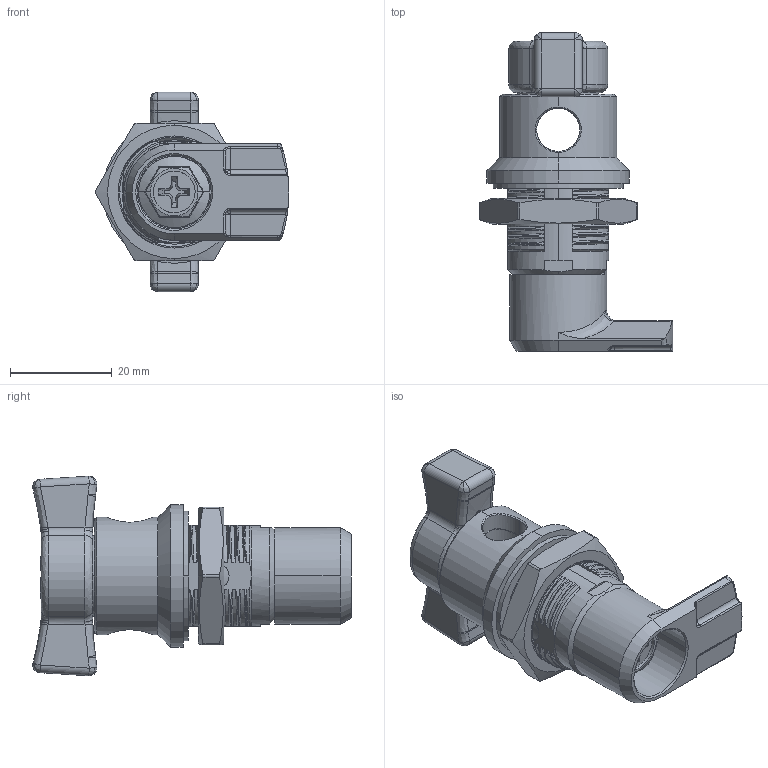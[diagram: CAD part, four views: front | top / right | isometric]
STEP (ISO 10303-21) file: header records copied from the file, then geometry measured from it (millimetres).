
FILE_DESCRIPTION (( 'STEP AP214' ), '1' );
FILE_NAME ('CUYUE.MS772.STEP', '2026-06-22T05:34:26', ( '' ), ( '' ), 'SwSTEP 2.0', 'SolidWorks 2020', '' );
FILE_SCHEMA (( 'AUTOMOTIVE_DESIGN' ));
Length unit declared in the file: millimetre
Products named in the file (9): 722-BAOSUJIAN; DIEXINGLUOSHUANG-M6X10; GANGSHUAN-772; 722XUANNIU_ASM; CUNDIAN; CUYUE.MS772; 772-BAOSUTI; JIZUO-772; LUOMU-705
Assembly tree (8 placements, depth 3):
  CUYUE.MS772
    JIZUO-772
    LUOMU-705
    722XUANNIU_ASM
      722-BAOSUJIAN
      772-BAOSUTI
    GANGSHUAN-772
    DIEXINGLUOSHUANG-M6X10
    CUNDIAN
Bounding box: 38.01 x 62.55 x 39.2 mm (x, y, z)
Volume: 19103.6 mm3; surface area: 14927.5 mm2
Topology: 4 solids, 10 shells, 1187 faces, 3297 edges, 1972 vertices
Faces by surface type: bspline 479, plane 413, cylinder 257, cone 38
Entity records: 67609 total; most frequent: CARTESIAN_POINT 29520, ORIENTED_EDGE 6230, DIRECTION 3583, EDGE_CURVE 3121, VERTEX_POINT 1972, VECTOR 1279, LINE 1279, EDGE_LOOP 1223
